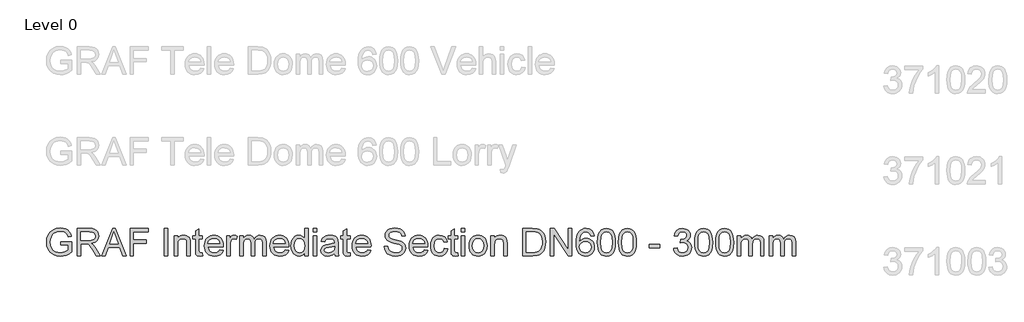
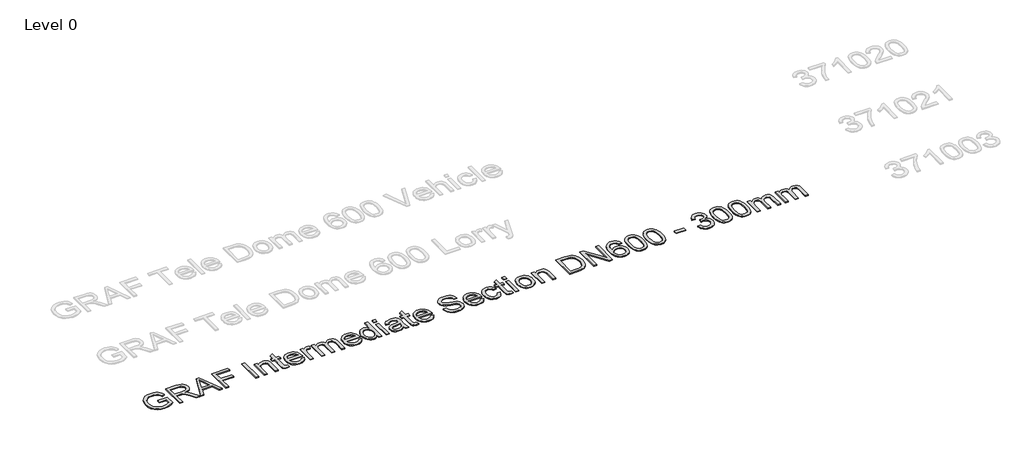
# One storey, part 2 of 14: 1 proxy.
"""IFC4 building model written with IfcOpenShell, lengths in millimetres."""

from ifc_helpers import new_model, si_unit, origin, origin_with_axes, place, context, project, spatial, polyline, outline, extrude, element, save

model = new_model("IFC4")

# Units and contexts
model_context = context("Model", 3, world=origin())
ifc_project = project(units=[si_unit("LENGTHUNIT", "METRE", prefix="MILLI")], contexts=[model_context])

# Site, building, storey
site = spatial("IfcSite", under=ifc_project)
building = spatial("IfcBuilding", under=site)
storey = spatial("IfcBuildingStorey", under=building, Name="Level 0", Elevation=0.0)

# Proxy
placement = place(None, origin())
element("IfcBuildingElementProxy", 1, Name="300mm Arial", ObjectType="300mm Arial", at=placement, inside=storey, context=model_context, shape_type="SweptSolid", body=[
    extrude(outline(polyline([(-15240.9940387, -12082.8803891), (-15240.9940387, -12045.2092728), (-15118.5629107, -12045.2092728), (-15118.5629107, -12157.8547397), (-15148.3153671, -12178.5481019), (-15179.0059225, -12193.3921404), (-15210.5610007, -12202.3316729), (-15242.9070251, -12205.3115171), (-15285.1674693, -12200.5750364), (-15323.3628175, -12186.3655943), (-15355.0926395, -12163.1798316), (-15377.9565055, -12131.5143888), (-15391.7796715, -12093.5305728), (-15396.3873935, -12051.3896903), (-15391.7980656, -12008.9453051), (-15378.0300819, -11969.46237), (-15355.6536596, -11936.3437934), (-15325.2390156, -11912.9924837), (-15288.1932987, -11899.1417266), (-15245.9236575, -11894.5248075), (-15214.8928112, -11897.2011491), (-15186.9889618, -11905.2301736), (-15163.4904994, -11918.032467), (-15145.6758138, -11935.0286152), (-15132.4964413, -11957.0371556), (-15122.9039183, -11984.8766256), (-15157.6319786, -11994.6622866), (-15165.3850917, -11974.8058559), (-15174.8120678, -11959.8238617), (-15187.2832674, -11948.5298844), (-15204.169051, -11939.7375048), (-15224.3013932, -11934.0813191), (-15246.5122687, -11932.1959239), (-15272.5123287, -11934.2284719), (-15294.7415982, -11940.3261159), (-15313.1173039, -11949.7255009), (-15327.5566722, -11961.6632717), (-15346.9440533, -11990.6891611), (-15355.7732212, -12019.1264393), (-15358.7162772, -12049.8445859), (-15355.175413, -12085.8694303), (-15344.5528204, -12115.5115221), (-15327.1703961, -12138.5593291), (-15303.3500369, -12154.8013191), (-15275.4737787, -12164.4306304), (-15245.9236575, -12167.6404008), (-15219.831627, -12165.2215767), (-15194.3833899, -12157.9651043), (-15172.2828791, -12147.9679111), (-15156.234027, -12137.3269244), (-15156.234027, -12082.8803891), (-15240.9940387, -12082.8803891)])), origin_with_axes(), (0.0, 0.0, 1.0), 10.0),
    extrude(outline(polyline([(-15057.3473467, -12200.6026275), (-15057.3473467, -11899.2336971), (-14927.4850024, -11899.2336971), (-14892.5821982, -11901.2662451), (-14867.1891434, -11907.3638892), (-14848.6294968, -11918.6210782), (-14834.2269167, -11936.1322612), (-14824.9838815, -11957.846496), (-14821.9028698, -11981.7128404), (-14827.0072325, -12011.4009174), (-14842.3203206, -12036.0122229), (-14853.9200997, -12046.0416058), (-14868.3019865, -12054.0568348), (-14905.4120827, -12064.0448309), (-14884.0013506, -12080.1580623), (-14853.467145, -12118.9328246), (-14803.2144645, -12200.6026275), (-14846.9924219, -12200.6026275), (-14886.2086426, -12138.1362648), (-14914.5355562, -12096.7863285), (-14934.4379722, -12077.2517946), (-14952.3538253, -12070.0780956), (-14974.2060158, -12068.7537205), (-15019.6762304, -12068.7537205), (-15019.6762304, -12200.6026275), (-15057.3473467, -12200.6026275)]), holes=[polyline([(-15019.6762304, -12031.0826042), (-14935.3576771, -12031.0826042), (-14911.1418448, -12029.7490319), (-14892.3522719, -12025.7483152), (-14878.2072092, -12018.8137396), (-14867.9249074, -12008.6785907), (-14861.6617165, -11996.4189232), (-14859.5739861, -11983.110792), (-14863.5563087, -11964.7350863), (-14875.5032765, -11949.927836), (-14896.058683, -11940.1605691), (-14925.8663217, -11936.9048134), (-15019.6762304, -11936.9048134), (-15019.6762304, -12031.0826042)])]), origin_with_axes(), (0.0, 0.0, 1.0), 10.0),
    extrude(outline(polyline([(-14791.0743586, -12200.6026275), (-14670.7769462, -11899.2336971), (-14638.6976362, -11899.2336971), (-14518.4002238, -12200.6026275), (-14558.2050557, -12200.6026275), (-14592.7123868, -12106.4248368), (-14716.835772, -12106.4248368), (-14751.2695268, -12200.6026275), (-14791.0743586, -12200.6026275)]), holes=[polyline([(-14703.003409, -12068.7537205), (-14606.4711735, -12068.7537205), (-14633.6208647, -11994.6622866), (-14654.7372912, -11936.9048134), (-14673.499273, -11988.1875635), (-14703.003409, -12068.7537205)])]), origin_with_axes(), (0.0, 0.0, 1.0), 10.0),
    extrude(outline(polyline([(-14478.1539335, -12200.6026275), (-14478.1539335, -11899.2336971), (-14275.6716834, -11899.2336971), (-14275.6716834, -11936.9048134), (-14440.4828172, -11936.9048134), (-14440.4828172, -12026.3737146), (-14299.2161311, -12026.3737146), (-14299.2161311, -12064.0448309), (-14440.4828172, -12064.0448309), (-14440.4828172, -12200.6026275), (-14478.1539335, -12200.6026275)])), origin_with_axes(), (0.0, 0.0, 1.0), 10.0),
    extrude(outline(polyline([(-14101.4427705, -12200.6026275), (-14101.4427705, -11899.2336971), (-14063.7716542, -11899.2336971), (-14063.7716542, -12200.6026275), (-14101.4427705, -12200.6026275)])), origin_with_axes(), (0.0, 0.0, 1.0), 10.0),
    extrude(outline(polyline([(-13993.1383111, -12200.6026275), (-13993.1383111, -11979.2848192), (-13955.4671948, -11979.2848192), (-13955.4671948, -12010.1869068), (-13942.3797928, -11994.6071043), (-13926.6620346, -11983.478674), (-13908.3139201, -11976.8016158), (-13887.3354493, -11974.5759297), (-13868.7666056, -11976.3693544), (-13851.7612603, -11981.7496286), (-13837.5794094, -11990.0453676), (-13827.4810487, -12000.5851868), (-13816.1870714, -12028.286701), (-13814.2005086, -12064.7070185), (-13814.2005086, -12200.6026275), (-13851.8716249, -12200.6026275), (-13851.8716249, -12069.7837901), (-13856.2126325, -12036.4536813), (-13862.2183061, -12026.5300645), (-13871.5533117, -12018.8321337), (-13883.5186736, -12013.8933179), (-13897.415416, -12012.247046), (-13919.4791386, -12015.9442601), (-13938.2871056, -12027.0359022), (-13945.8033946, -12036.0903978), (-13951.1721725, -12048.4650284), (-13955.4671948, -12083.1746947), (-13955.4671948, -12200.6026275), (-13993.1383111, -12200.6026275)])), origin_with_axes(), (0.0, 0.0, 1.0), 10.0),
    extrude(outline(polyline([(-13682.3516016, -12169.1855051), (-13677.642712, -12201.7062735), (-13705.8224729, -12205.3115171), (-13723.9038729, -12203.7480186), (-13737.386748, -12199.0575232), (-13746.9148917, -12191.828642), (-13753.1320974, -12182.6499862), (-13756.5534, -12166.8862427), (-13757.6938342, -12139.9020983), (-13757.6938342, -12016.9559355), (-13785.9471714, -12016.9559355), (-13785.9471714, -11979.2848192), (-13757.6938342, -11979.2848192), (-13757.6938342, -11925.5004715), (-13720.0227179, -11903.3539754), (-13720.0227179, -11979.2848192), (-13682.3516016, -11979.2848192), (-13682.3516016, -12016.9559355), (-13720.0227179, -12016.9559355), (-13720.0227179, -12138.7984523), (-13718.0361551, -12158.2226217), (-13711.5982202, -12165.102015), (-13698.7591386, -12167.6404008), (-13682.3516016, -12169.1855051)])), origin_with_axes(), (0.0, 0.0, 1.0), 10.0),
    extrude(outline(polyline([(-13489.7285889, -12134.678174), (-13452.7932366, -12139.3870635), (-13466.1013678, -12167.2173365), (-13487.3373559, -12188.0210633), (-13516.0229545, -12200.9889036), (-13551.6799169, -12205.3115171), (-13575.0542192, -12203.4468152), (-13595.8809386, -12197.8527096), (-13614.1600752, -12188.5292003), (-13629.8916291, -12175.4762873), (-13642.5421712, -12159.057254), (-13651.5782727, -12139.6353839), (-13656.9999336, -12117.210677), (-13658.8071539, -12091.7831334), (-13656.9815395, -12065.4933663), (-13651.5046963, -12042.3213991), (-13642.3766243, -12022.2672319), (-13629.5973235, -12005.3308645), (-13613.9071564, -11991.8755805), (-13596.0464855, -11982.2646634), (-13576.0153109, -11976.4981131), (-13553.8136325, -11974.5759297), (-13532.3270247, -11976.4935146), (-13512.8959575, -11982.2462693), (-13495.5204311, -11991.8341938), (-13480.2004452, -12005.2572881), (-13467.6947566, -12022.1568673), (-13458.762122, -12042.1742463), (-13453.4025411, -12065.3094253), (-13451.6160142, -12091.5624042), (-13451.8367434, -12101.7159472), (-13621.1360376, -12101.7159472), (-13614.6153292, -12129.9141022), (-13599.4677881, -12150.6442526), (-13577.6064005, -12163.3913637), (-13550.9441529, -12167.6404008), (-13530.8945842, -12165.6722321), (-13514.0088006, -12159.7677261), (-13500.2868022, -12149.5590007), (-13489.7285889, -12134.678174)]), holes=[polyline([(-13621.1360376, -12064.0448309), (-13489.2871305, -12064.0448309), (-13494.3822961, -12044.142415), (-13504.3702923, -12029.9053818), (-13526.3328474, -12016.6616299), (-13553.9607853, -12012.247046), (-13579.35384, -12015.7695161), (-13600.3507048, -12026.3369264), (-13614.946423, -12042.8088428), (-13621.1360376, -12064.0448309)])]), origin_with_axes(), (0.0, 0.0, 1.0), 10.0),
    extrude(outline(polyline([(-13413.9448979, -12200.6026275), (-13413.9448979, -11979.2848192), (-13380.9826711, -11979.2848192), (-13380.9826711, -12012.0263168), (-13368.8057771, -11993.0436059), (-13357.5853762, -11981.8599932), (-13346.3281872, -11976.3969456), (-13334.0409285, -11974.5759297), (-13315.2789468, -11977.4821975), (-13296.2226594, -11986.2010007), (-13308.8042237, -12019.9725679), (-13322.0479755, -12014.1784265), (-13335.2917273, -12012.247046), (-13346.5397193, -12014.1048501), (-13356.5920948, -12019.6782623), (-13364.7130899, -12028.5442184), (-13370.1669405, -12040.279654), (-13374.7470713, -12061.3225042), (-13376.2737816, -12084.2783407), (-13376.2737816, -12200.6026275), (-13413.9448979, -12200.6026275)])), origin_with_axes(), (0.0, 0.0, 1.0), 10.0),
    extrude(outline(polyline([(-13272.6782117, -12200.6026275), (-13272.6782117, -11979.2848192), (-13235.0070954, -11979.2848192), (-13235.0070954, -12015.7051368), (-13223.67633, -11998.975703), (-13209.108203, -11985.869907), (-13191.7993551, -11977.399424), (-13172.2464271, -11974.5759297), (-13151.2955474, -11977.4546063), (-13134.5017344, -11986.0906361), (-13121.9569583, -11999.9138021), (-13113.7531898, -12018.3538871), (-13100.0219944, -11999.2010308), (-13084.3594184, -11985.5204191), (-13066.765462, -11977.312052), (-13047.2401251, -11974.5759297), (-13018.9224085, -11979.1284694), (-12997.9807259, -11992.7860885), (-12985.0404768, -12015.9166689), (-12980.7270604, -12048.8880927), (-12980.7270604, -12200.6026275), (-13018.3981767, -12200.6026275), (-13018.3981767, -12065.0749005), (-13021.8930556, -12033.6209899), (-13026.8042803, -12024.9481719), (-13034.5481963, -12018.1331579), (-13044.5086013, -12013.718574), (-13056.069293, -12012.247046), (-13076.4775467, -12016.0178365), (-13093.1150099, -12027.3302078), (-13104.1790609, -12046.9567123), (-13107.8670779, -12075.669902), (-13107.8670779, -12200.6026275), (-13145.5381942, -12200.6026275), (-13145.5381942, -12060.8810458), (-13147.717895, -12039.5806782), (-13154.2569975, -12024.3871518), (-13165.7625069, -12015.2820725), (-13182.8414285, -12012.247046), (-13197.3543732, -12014.270397), (-13210.7268838, -12020.3404499), (-13221.7633436, -12030.310052), (-13229.2681363, -12044.0320504), (-13233.5723557, -12063.0699436), (-13235.0070954, -12088.9872302), (-13235.0070954, -12200.6026275), (-13272.6782117, -12200.6026275)])), origin_with_axes(), (0.0, 0.0, 1.0), 10.0),
    extrude(outline(polyline([(-12769.2684895, -12134.678174), (-12732.3331372, -12139.3870635), (-12745.6412684, -12167.2173365), (-12766.8772566, -12188.0210633), (-12795.5628551, -12200.9889036), (-12831.2198175, -12205.3115171), (-12854.5941198, -12203.4468152), (-12875.4208393, -12197.8527096), (-12893.6999759, -12188.5292003), (-12909.4315297, -12175.4762873), (-12922.0820718, -12159.057254), (-12931.1181733, -12139.6353839), (-12936.5398342, -12117.210677), (-12938.3470545, -12091.7831334), (-12936.5214401, -12065.4933663), (-12931.0445969, -12042.3213991), (-12921.9165249, -12022.2672319), (-12909.1372241, -12005.3308645), (-12893.447057, -11991.8755805), (-12875.5863861, -11982.2646634), (-12855.5552115, -11976.4981131), (-12833.3535331, -11974.5759297), (-12811.8669253, -11976.4935146), (-12792.4358582, -11982.2462693), (-12775.0603317, -11991.8341938), (-12759.7403459, -12005.2572881), (-12747.2346573, -12022.1568673), (-12738.3020226, -12042.1742463), (-12732.9424418, -12065.3094253), (-12731.1559148, -12091.5624042), (-12731.376644, -12101.7159472), (-12900.6759382, -12101.7159472), (-12894.1552299, -12129.9141022), (-12879.0076887, -12150.6442526), (-12857.1463011, -12163.3913637), (-12830.4840535, -12167.6404008), (-12810.4344848, -12165.6722321), (-12793.5487012, -12159.7677261), (-12779.8267028, -12149.5590007), (-12769.2684895, -12134.678174)]), holes=[polyline([(-12900.6759382, -12064.0448309), (-12768.8270311, -12064.0448309), (-12773.9221968, -12044.142415), (-12783.910193, -12029.9053818), (-12805.8727481, -12016.6616299), (-12833.5006859, -12012.247046), (-12858.8937406, -12015.7695161), (-12879.8906055, -12026.3369264), (-12894.4863237, -12042.8088428), (-12900.6759382, -12064.0448309)])]), origin_with_axes(), (0.0, 0.0, 1.0), 10.0),
    extrude(outline(polyline([(-12556.9270019, -12200.6026275), (-12556.9270019, -12165.0652268), (-12568.1979866, -12182.6729788), (-12581.8510071, -12195.2499445), (-12597.8860636, -12202.7961239), (-12616.3031559, -12205.3115171), (-12640.656944, -12201.6694853), (-12662.9505929, -12190.7433901), (-12681.8229393, -12173.2965864), (-12695.9128197, -12150.0924296), (-12704.6868053, -12122.0690186), (-12707.6114672, -12090.1644526), (-12704.9167315, -12058.6553597), (-12696.8325247, -12030.1996874), (-12683.3680437, -12006.4161164), (-12664.5324855, -11988.9233275), (-12641.751393, -11978.1627792), (-12616.4503087, -11974.5759297), (-12598.0194208, -11977.1419066), (-12581.7222484, -11984.8398374), (-12567.9082795, -11996.6396524), (-12556.9270019, -12011.511282), (-12556.9270019, -11899.2336971), (-12519.2558856, -11899.2336971), (-12519.2558856, -12200.6026275), (-12556.9270019, -12200.6026275)]), holes=[polyline([(-12669.9403508, -12090.0172998), (-12665.6913138, -12124.0923696), (-12652.9442027, -12148.326596), (-12634.4213442, -12162.8119496), (-12612.8450652, -12167.6404008), (-12591.2779832, -12163.0326788), (-12573.2241743, -12149.2095128), (-12561.001295, -12125.9133855), (-12556.9270019, -12092.8867793), (-12561.0748714, -12056.7791615), (-12573.5184799, -12031.7447918), (-12592.0321413, -12017.1214824), (-12614.3901696, -12012.247046), (-12636.1871778, -12016.9283444), (-12654.0478487, -12030.9722396), (-12665.9672253, -12055.0961014), (-12669.9403508, -12090.0172998)])]), origin_with_axes(), (0.0, 0.0, 1.0), 10.0),
    extrude(outline(polyline([(-12462.7492112, -11936.9048134), (-12462.7492112, -11899.2336971), (-12425.0780949, -11899.2336971), (-12425.0780949, -11936.9048134), (-12462.7492112, -11936.9048134)])), origin_with_axes(), (0.0, 0.0, 1.0), 10.0),
    extrude(outline(polyline([(-12462.7492112, -12200.6026275), (-12462.7492112, -11979.2848192), (-12425.0780949, -11979.2848192), (-12425.0780949, -12200.6026275), (-12462.7492112, -12200.6026275)])), origin_with_axes(), (0.0, 0.0, 1.0), 10.0),
    extrude(outline(polyline([(-12227.3047342, -12172.3492903), (-12245.3033609, -12187.78194), (-12263.8354164, -12197.8803008), (-12283.3239651, -12203.453713), (-12304.1920712, -12205.3115171), (-12335.673573, -12200.8417508), (-12358.8961239, -12187.4324521), (-12373.2159306, -12167.0701837), (-12377.9891995, -12141.7415083), (-12376.1865777, -12126.1249176), (-12370.7787124, -12111.9430667), (-12362.4369881, -12099.8029609), (-12351.8327896, -12090.3116054), (-12325.4556506, -12077.9507703), (-12292.8613058, -12072.2853876), (-12254.3440609, -12066.3256993), (-12227.5254634, -12059.3359414), (-12227.3047342, -12050.9482319), (-12229.8983023, -12034.1360247), (-12237.6790065, -12023.1363531), (-12255.0798249, -12014.9693728), (-12279.3232484, -12012.247046), (-12301.7640501, -12014.0588648), (-12317.4358231, -12019.4943213), (-12328.122795, -12029.5466968), (-12335.6091936, -12045.2092728), (-12373.2803099, -12040.5003832), (-12366.7412075, -12019.8989915), (-12356.9831375, -12003.7121837), (-12343.0955922, -11991.3329546), (-12324.1680636, -11982.1542988), (-12301.019089, -11976.470522), (-12274.467206, -11974.5759297), (-12249.0005749, -11976.2497928), (-12228.8130504, -11981.271382), (-12213.5919329, -11988.82216), (-12203.0245226, -11998.0835892), (-12196.0163706, -12009.5339163), (-12191.4730279, -12023.6513879), (-12189.6336179, -12056.6136146), (-12189.6336179, -12103.4817808), (-12187.7206316, -12168.9279878), (-12180.2158389, -12200.6026275), (-12217.8869552, -12200.6026275), (-12227.3047342, -12172.3492903)]), holes=[polyline([(-12227.3047342, -12097.0070577), (-12288.0788399, -12108.5585523), (-12320.4892436, -12114.6653935), (-12335.1677352, -12124.5982073), (-12340.3180832, -12139.0927579), (-12337.512983, -12150.2947647), (-12329.0976823, -12159.4734205), (-12315.2561222, -12165.5986557), (-12296.1722437, -12167.6404008), (-12275.938734, -12165.3871235), (-12258.059669, -12158.6272919), (-12243.5651184, -12148.6668869), (-12233.4851518, -12136.8118896), (-12229.0153855, -12124.5982073), (-12227.5254634, -12107.6756356), (-12227.3047342, -12097.0070577)])]), origin_with_axes(), (0.0, 0.0, 1.0), 10.0),
    extrude(outline(polyline([(-12057.7847109, -12169.1855051), (-12053.0758213, -12201.7062735), (-12081.2555822, -12205.3115171), (-12099.3369822, -12203.7480186), (-12112.8198573, -12199.0575232), (-12122.348001, -12191.828642), (-12128.5652067, -12182.6499862), (-12131.9865093, -12166.8862427), (-12133.1269435, -12139.9020983), (-12133.1269435, -12016.9559355), (-12161.3802807, -12016.9559355), (-12161.3802807, -11979.2848192), (-12133.1269435, -11979.2848192), (-12133.1269435, -11925.5004715), (-12095.4558272, -11903.3539754), (-12095.4558272, -11979.2848192), (-12057.7847109, -11979.2848192), (-12057.7847109, -12016.9559355), (-12095.4558272, -12016.9559355), (-12095.4558272, -12138.7984523), (-12093.4692644, -12158.2226217), (-12087.0313295, -12165.102015), (-12074.1922479, -12167.6404008), (-12057.7847109, -12169.1855051)])), origin_with_axes(), (0.0, 0.0, 1.0), 10.0),
    extrude(outline(polyline([(-11865.1616982, -12134.678174), (-11828.2263459, -12139.3870635), (-11841.5344771, -12167.2173365), (-11862.7704652, -12188.0210633), (-11891.4560638, -12200.9889036), (-11927.1130262, -12205.3115171), (-11950.4873285, -12203.4468152), (-11971.3140479, -12197.8527096), (-11989.5931845, -12188.5292003), (-12005.3247384, -12175.4762873), (-12017.9752805, -12159.057254), (-12027.011382, -12139.6353839), (-12032.4330429, -12117.210677), (-12034.2402632, -12091.7831334), (-12032.4146488, -12065.4933663), (-12026.9378056, -12042.3213991), (-12017.8097336, -12022.2672319), (-12005.0304328, -12005.3308645), (-11989.3402657, -11991.8755805), (-11971.4795948, -11982.2646634), (-11951.4484202, -11976.4981131), (-11929.2467418, -11974.5759297), (-11907.760134, -11976.4935146), (-11888.3290668, -11982.2462693), (-11870.9535404, -11991.8341938), (-11855.6335545, -12005.2572881), (-11843.1278659, -12022.1568673), (-11834.1952313, -12042.1742463), (-11828.8356504, -12065.3094253), (-11827.0491235, -12091.5624042), (-11827.2698527, -12101.7159472), (-11996.5691469, -12101.7159472), (-11990.0484385, -12129.9141022), (-11974.9008974, -12150.6442526), (-11953.0395098, -12163.3913637), (-11926.3772622, -12167.6404008), (-11906.3276935, -12165.6722321), (-11889.4419099, -12159.7677261), (-11875.7199115, -12149.5590007), (-11865.1616982, -12134.678174)]), holes=[polyline([(-11996.5691469, -12064.0448309), (-11864.7202398, -12064.0448309), (-11869.8154054, -12044.142415), (-11879.8034016, -12029.9053818), (-11901.7659567, -12016.6616299), (-11929.3938946, -12012.247046), (-11954.7869493, -12015.7695161), (-11975.7838141, -12026.3369264), (-11990.3795323, -12042.8088428), (-11996.5691469, -12064.0448309)])]), origin_with_axes(), (0.0, 0.0, 1.0), 10.0),
    extrude(outline(polyline([(-11681.0735478, -12097.0070577), (-11643.4024315, -12097.0070577), (-11639.0798181, -12117.9119521), (-11631.2623257, -12134.7149622), (-11619.0670375, -12148.0506845), (-11601.6110369, -12158.5537155), (-11580.2738811, -12165.3687294), (-11556.4351278, -12167.6404008), (-11535.44746, -12165.9205524), (-11517.0717544, -12160.7610075), (-11502.1817306, -12152.5940272), (-11491.6511085, -12141.8518729), (-11485.3879175, -12129.518629), (-11483.3001872, -12116.5783798), (-11484.8636857, -12103.9692245), (-11489.5541811, -12093.0707203), (-11499.0823248, -12083.7725029), (-11515.158768, -12075.9642076), (-11570.0099735, -12061.5800216), (-11606.0164237, -12052.0610749), (-11629.0550337, -12043.0019808), (-11647.8078184, -12030.3284461), (-11661.0975555, -12014.9693728), (-11669.0162154, -11997.2558547), (-11671.6557687, -11977.5189857), (-11668.390816, -11955.455263), (-11658.5959579, -11934.8814624), (-11642.5287118, -11917.4438558), (-11620.446595, -11904.7887152), (-11593.9406973, -11897.0907845), (-11564.6021081, -11894.5248075), (-11532.8171038, -11897.2103461), (-11505.0052249, -11905.2669618), (-11482.159753, -11918.5291077), (-11465.2739694, -11936.831237), (-11454.5869975, -11959.0329154), (-11450.3379604, -11983.9937088), (-11488.0090767, -11983.9937088), (-11494.9252582, -11961.5161189), (-11509.3462325, -11945.2925229), (-11531.8790047, -11935.4700736), (-11563.1305802, -11932.1959239), (-11595.1179196, -11935.4332854), (-11617.0620806, -11945.1453701), (-11629.7540095, -11959.4375856), (-11633.9846524, -11976.4153397), (-11630.9864142, -11990.8914962), (-11621.9916994, -12002.5349613), (-11600.7281201, -12012.9460218), (-11560.4818298, -12023.5778115), (-11518.9479525, -12033.6761722), (-11493.8216123, -12042.486946), (-11472.3465008, -12056.1537621), (-11457.3645065, -12073.0211516), (-11448.5629298, -12092.9051734), (-11445.6290709, -12115.6218867), (-11449.0043882, -12138.8444376), (-11459.1303401, -12160.6874311), (-11475.5930594, -12179.486201), (-11497.9786788, -12193.5760814), (-11524.8984438, -12202.3776582), (-11554.9635999, -12205.3115171), (-11591.871361, -12202.1477319), (-11622.2492168, -12192.6563764), (-11646.446655, -12176.8006624), (-11664.8131636, -12154.5438017), (-11676.6037816, -12127.4308987), (-11681.0735478, -12097.0070577)])), origin_with_axes(), (0.0, 0.0, 1.0), 10.0),
    extrude(outline(polyline([(-11238.8793896, -12134.678174), (-11201.9440373, -12139.3870635), (-11215.2521685, -12167.2173365), (-11236.4881566, -12188.0210633), (-11265.1737552, -12200.9889036), (-11300.8307176, -12205.3115171), (-11324.2050199, -12203.4468152), (-11345.0317393, -12197.8527096), (-11363.310876, -12188.5292003), (-11379.0424298, -12175.4762873), (-11391.6929719, -12159.057254), (-11400.7290734, -12139.6353839), (-11406.1507343, -12117.210677), (-11407.9579546, -12091.7831334), (-11406.1323402, -12065.4933663), (-11400.655497, -12042.3213991), (-11391.527425, -12022.2672319), (-11378.7481242, -12005.3308645), (-11363.0579571, -11991.8755805), (-11345.1972862, -11982.2646634), (-11325.1661116, -11976.4981131), (-11302.9644332, -11974.5759297), (-11281.4778254, -11976.4935146), (-11262.0467583, -11982.2462693), (-11244.6712318, -11991.8341938), (-11229.3512459, -12005.2572881), (-11216.8455574, -12022.1568673), (-11207.9129227, -12042.1742463), (-11202.5533418, -12065.3094253), (-11200.7668149, -12091.5624042), (-11200.9875441, -12101.7159472), (-11370.2868383, -12101.7159472), (-11363.7661299, -12129.9141022), (-11348.6185888, -12150.6442526), (-11326.7572012, -12163.3913637), (-11300.0949536, -12167.6404008), (-11280.0453849, -12165.6722321), (-11263.1596013, -12159.7677261), (-11249.4376029, -12149.5590007), (-11238.8793896, -12134.678174)]), holes=[polyline([(-11370.2868383, -12064.0448309), (-11238.4379312, -12064.0448309), (-11243.5330968, -12044.142415), (-11253.521093, -12029.9053818), (-11275.4836481, -12016.6616299), (-11303.111586, -12012.247046), (-11328.5046407, -12015.7695161), (-11349.5015056, -12026.3369264), (-11364.0972237, -12042.8088428), (-11370.2868383, -12064.0448309)])]), origin_with_axes(), (0.0, 0.0, 1.0), 10.0),
    extrude(outline(polyline([(-11021.8290125, -12120.5515054), (-10984.1578961, -12125.2603949), (-10994.6609271, -12158.7652476), (-11014.3977961, -12184.084726), (-11041.5106992, -12200.0048193), (-11074.1418322, -12205.3115171), (-11095.269755, -12203.4606108), (-11114.2133785, -12197.9078919), (-11130.9727026, -12188.6533605), (-11145.5477274, -12175.6970165), (-11157.3452432, -12159.2825817), (-11165.7720401, -12139.653778), (-11170.8281183, -12116.8106053), (-11172.5134777, -12090.7530638), (-11169.6348011, -12057.229817), (-11160.9987712, -12028.1763364), (-11146.4674324, -12004.7146622), (-11125.9028289, -11987.9668343), (-11101.3007205, -11977.9236559), (-11074.656867, -11974.5759297), (-11042.8258773, -11979.1744546), (-11017.3776403, -11992.9700295), (-10999.1214963, -12015.2268902), (-10988.8667857, -12045.2092728), (-11026.537902, -12049.9181623), (-11033.3713101, -12033.4830342), (-11044.0122968, -12021.7016133), (-11057.8722509, -12014.6106878), (-11074.3625614, -12012.247046), (-11098.7071524, -12016.9007532), (-11118.0301542, -12030.861875), (-11130.6393096, -12054.8845692), (-11134.8423614, -12089.7229942), (-11130.7312801, -12125.0304687), (-11118.3980362, -12149.1359364), (-11099.4245223, -12163.0142847), (-11075.392631, -12167.6404008), (-11055.8856882, -12164.7525271), (-11039.8920184, -12156.0889061), (-11028.2577503, -12141.4288086), (-11021.8290125, -12120.5515054)])), origin_with_axes(), (0.0, 0.0, 1.0), 10.0),
    extrude(outline(polyline([(-10871.1445472, -12169.1855051), (-10866.4356577, -12201.7062735), (-10894.6154185, -12205.3115171), (-10912.6968186, -12203.7480186), (-10926.1796937, -12199.0575232), (-10935.7078374, -12191.828642), (-10941.9250431, -12182.6499862), (-10945.3463457, -12166.8862427), (-10946.4867798, -12139.9020983), (-10946.4867798, -12016.9559355), (-10974.7401171, -12016.9559355), (-10974.7401171, -11979.2848192), (-10946.4867798, -11979.2848192), (-10946.4867798, -11925.5004715), (-10908.8156635, -11903.3539754), (-10908.8156635, -11979.2848192), (-10871.1445472, -11979.2848192), (-10871.1445472, -12016.9559355), (-10908.8156635, -12016.9559355), (-10908.8156635, -12138.7984523), (-10906.8291008, -12158.2226217), (-10900.3911658, -12165.102015), (-10887.5520842, -12167.6404008), (-10871.1445472, -12169.1855051)])), origin_with_axes(), (0.0, 0.0, 1.0), 10.0),
    extrude(outline(polyline([(-10833.4734309, -11936.9048134), (-10833.4734309, -11899.2336971), (-10795.8023146, -11899.2336971), (-10795.8023146, -11936.9048134), (-10833.4734309, -11936.9048134)])), origin_with_axes(), (0.0, 0.0, 1.0), 10.0),
    extrude(outline(polyline([(-10833.4734309, -12200.6026275), (-10833.4734309, -11979.2848192), (-10795.8023146, -11979.2848192), (-10795.8023146, -12200.6026275), (-10833.4734309, -12200.6026275)])), origin_with_axes(), (0.0, 0.0, 1.0), 10.0),
    extrude(outline(polyline([(-10748.7134192, -12089.9437234), (-10746.6762727, -12061.2811174), (-10740.564833, -12036.58244), (-10730.3791003, -12015.847691), (-10716.1190745, -11999.0768706), (-10701.7624796, -11988.3577089), (-10685.9159627, -11980.7011649), (-10668.5795236, -11976.1072385), (-10649.7531625, -11974.5759297), (-10628.9701291, -11976.4406316), (-10610.1782569, -11982.0347372), (-10593.377546, -11991.3582465), (-10578.5679965, -12004.4111595), (-10566.4807737, -12020.7520179), (-10557.8470431, -12039.9393632), (-10552.6668047, -12061.9731954), (-10550.9400586, -12086.8535146), (-10553.9934792, -12124.910907), (-10563.1537409, -12153.8816141), (-10578.1541292, -12175.5774548), (-10598.7279298, -12191.8102479), (-10623.1644913, -12201.9361998), (-10649.7531625, -12205.3115171), (-10670.8396986, -12203.453713), (-10689.8063148, -12197.8803008), (-10706.6530109, -12188.5912804), (-10721.379787, -12175.5866519), (-10733.3382511, -12159.0871444), (-10741.8800112, -12139.3134871), (-10747.0050672, -12116.2656801), (-10748.7134192, -12089.9437234)]), holes=[polyline([(-10711.0423029, -12089.870147), (-10706.6829013, -12123.9636109), (-10693.6046964, -12148.2530196), (-10673.9230096, -12162.7935555), (-10649.7531625, -12167.6404008), (-10625.69368, -12162.7659643), (-10606.0487815, -12148.142655), (-10592.9705766, -12123.5313495), (-10588.6111749, -12088.6929246), (-10592.9981677, -12055.5927421), (-10606.1591461, -12031.6344272), (-10625.8316358, -12017.0938913), (-10649.7531625, -12012.247046), (-10673.9230096, -12017.0754972), (-10693.6046964, -12031.5608508), (-10706.6829013, -12055.7950772), (-10711.0423029, -12089.870147)])]), origin_with_axes(), (0.0, 0.0, 1.0), 10.0),
    extrude(outline(polyline([(-10508.5600528, -12200.6026275), (-10508.5600528, -11979.2848192), (-10470.8889365, -11979.2848192), (-10470.8889365, -12010.1869068), (-10457.8015345, -11994.6071043), (-10442.0837763, -11983.478674), (-10423.7356617, -11976.8016158), (-10402.757191, -11974.5759297), (-10384.1883473, -11976.3693544), (-10367.183002, -11981.7496286), (-10353.0011511, -11990.0453676), (-10342.9027904, -12000.5851868), (-10331.6088131, -12028.286701), (-10329.6222503, -12064.7070185), (-10329.6222503, -12200.6026275), (-10367.2933666, -12200.6026275), (-10367.2933666, -12069.7837901), (-10371.6343742, -12036.4536813), (-10377.6400477, -12026.5300645), (-10386.9750534, -12018.8321337), (-10398.9404153, -12013.8933179), (-10412.8371576, -12012.247046), (-10434.9008803, -12015.9442601), (-10453.7088473, -12027.0359022), (-10461.2251363, -12036.0903978), (-10466.5939142, -12048.4650284), (-10470.8889365, -12083.1746947), (-10470.8889365, -12200.6026275), (-10508.5600528, -12200.6026275)])), origin_with_axes(), (0.0, 0.0, 1.0), 10.0),
    extrude(outline(polyline([(-10155.3933374, -12200.6026275), (-10155.3933374, -11899.2336971), (-10051.4298856, -11899.2336971), (-9997.6455379, -11903.5747046), (-9973.6228436, -11911.94402), (-9953.3525457, -11925.1325895), (-9932.5120306, -11948.088426), (-9917.6679921, -11976.6360689), (-9908.7836419, -12010.223695), (-9905.8221919, -12048.2994815), (-9907.8271488, -12080.645506), (-9913.8420194, -12109.1103753), (-9923.0022811, -12133.3446018), (-9934.4434111, -12152.9986974), (-9947.6135865, -12168.5141205), (-9961.9609843, -12180.3323296), (-9978.4329007, -12189.0971181), (-9997.9766317, -12195.4522796), (-10046.4266904, -12200.6026275), (-10155.3933374, -12200.6026275)]), holes=[polyline([(-10117.7222211, -12162.9315112), (-10051.0620036, -12162.9315112), (-10023.489248, -12161.5703478), (-10002.5751566, -12157.4868577), (-9986.793019, -12150.9201641), (-9974.616125, -12142.1093903), (-9961.528723, -12125.8030209), (-9951.6970767, -12104.6957914), (-9945.5442503, -12078.6957314), (-9943.4933082, -12047.7108703), (-9947.512419, -12006.6552397), (-9959.5697514, -11976.3417633), (-9977.384437, -11955.5196424), (-9998.6756075, -11942.9380781), (-10020.343857, -11938.4131296), (-10052.0920732, -11936.9048134), (-10117.7222211, -11936.9048134), (-10117.7222211, -12162.9315112)])]), origin_with_axes(), (0.0, 0.0, 1.0), 10.0),
    extrude(outline(polyline([(-9854.024407, -12200.6026275), (-9854.024407, -11899.2336971), (-9813.7045403, -11899.2336971), (-9656.2510464, -12137.989112), (-9656.2510464, -11899.2336971), (-9618.57993, -11899.2336971), (-9618.57993, -12200.6026275), (-9658.8997967, -12200.6026275), (-9816.3532907, -11961.7736363), (-9816.3532907, -12200.6026275), (-9854.024407, -12200.6026275)])), origin_with_axes(), (0.0, 0.0, 1.0), 10.0),
    extrude(outline(polyline([(-9373.7176741, -11979.2848192), (-9411.3887904, -11983.9937088), (-9417.4588433, -11965.3236975), (-9425.6626118, -11952.5765864), (-9442.7507305, -11940.8227566), (-9463.4073045, -11936.9048134), (-9480.9184875, -11939.1856818), (-9497.3996008, -11946.0282869), (-9511.5538606, -11960.440064), (-9523.1145523, -11980.2781006), (-9530.9228476, -12008.3382998), (-9533.8199184, -12047.4165647), (-9518.7091654, -12029.7858201), (-9500.6001742, -12017.3606057), (-9480.5046202, -12009.9937688), (-9459.4341789, -12007.5381565), (-9441.3343848, -12009.2166181), (-9424.6325422, -12014.2520029), (-9409.3286512, -12022.6443109), (-9395.4227118, -12034.3935421), (-9383.8666186, -12048.8007208), (-9375.6122663, -12065.166871), (-9370.659655, -12083.4919929), (-9369.0087845, -12103.7760864), (-9372.1173874, -12130.7510337), (-9381.443196, -12155.7578123), (-9396.2136581, -12176.9662093), (-9415.6562215, -12192.5460118), (-9438.8879695, -12202.1201408), (-9465.0259853, -12205.3115171), (-9487.4828818, -12203.1961956), (-9507.7646761, -12196.8502312), (-9525.871368, -12186.2736238), (-9541.8029577, -12171.4663735), (-9554.7914913, -12151.8030809), (-9564.0690154, -12126.6583465), (-9569.6355299, -12096.0321704), (-9571.4910347, -12059.9245526), (-9569.4308955, -12019.4437375), (-9563.250478, -11984.8950197), (-9552.9497821, -11956.278399), (-9538.5288079, -11933.5938754), (-9522.8984216, -11918.5612974), (-9504.7756348, -11907.8237417), (-9484.1604475, -11901.3812082), (-9461.0528597, -11899.2336971), (-9427.9986624, -11904.5495919), (-9401.5295529, -11920.4972764), (-9382.9883003, -11945.8259518), (-9373.7176741, -11979.2848192)]), holes=[polyline([(-9533.8199184, -12103.1874752), (-9531.6402175, -12119.8801207), (-9525.1011151, -12135.8186082), (-9514.947572, -12149.5222125), (-9501.9245494, -12159.5102087), (-9486.2067911, -12165.6078527), (-9467.9690412, -12167.6404008), (-9443.1094154, -12163.4281519), (-9423.5656844, -12150.7914054), (-9410.9013467, -12130.9257777), (-9406.6799008, -12105.0268852), (-9410.8461644, -12080.1672594), (-9423.3449552, -12061.2121396), (-9443.21978, -12049.2099895), (-9469.5141456, -12045.2092728), (-9494.3369832, -12049.2099895), (-9515.0947248, -12061.2121396), (-9529.13862, -12079.7074069), (-9533.8199184, -12103.1874752)])]), origin_with_axes(), (0.0, 0.0, 1.0), 10.0),
    extrude(outline(polyline([(-9336.0465578, -12052.3461835), (-9333.2782457, -12004.1076569), (-9324.9733097, -11965.6363972), (-9311.2145231, -11936.3437934), (-9292.0846593, -11915.6412341), (-9267.4457627, -11903.3355813), (-9237.1598775, -11899.2336971), (-9213.9465236, -11901.6617183), (-9193.1611908, -11908.9457818), (-9175.7787666, -11920.8007791), (-9162.774138, -11936.9416016), (-9152.9516888, -11957.2302936), (-9145.1158023, -11981.5288994), (-9139.9838484, -12012.3850018), (-9138.2731971, -12052.3461835), (-9141.013918, -12100.3087986), (-9149.2360806, -12138.6880877), (-9162.9120938, -12168.0082828), (-9182.0143664, -12188.7936155), (-9206.7084453, -12201.1820417), (-9237.1598775, -12205.3115171), (-9257.908422, -12203.5180923), (-9276.3025217, -12198.1378182), (-9292.3421767, -12189.1706945), (-9306.0273869, -12176.6167215), (-9319.1607742, -12153.9230009), (-9328.5417651, -12125.646671), (-9334.1703596, -12091.7877319), (-9336.0465578, -12052.3461835)]), holes=[polyline([(-9298.3754414, -12052.2726071), (-9293.9608575, -12111.5291995), (-9288.4426276, -12131.7971981), (-9280.7171057, -12145.8249985), (-9260.9986307, -12162.1865502), (-9237.1598775, -12167.6404008), (-9213.3211242, -12162.1681561), (-9193.6026492, -12145.7514221), (-9185.8771273, -12131.7006291), (-9180.3588974, -12111.437229), (-9175.9443135, -12052.2726071), (-9180.2117446, -11994.3495869), (-9185.5460335, -11974.1482669), (-9193.014038, -11959.7870735), (-9212.6957248, -11942.6253784), (-9237.6013358, -11936.9048134), (-9261.1825717, -11941.9447967), (-9280.1284945, -11957.0647467), (-9288.1115338, -11972.6997315), (-9293.8137047, -11993.7793698), (-9298.3754414, -12052.2726071)])]), origin_with_axes(), (0.0, 0.0, 1.0), 10.0),
    extrude(outline(polyline([(-9105.3109704, -12052.3461835), (-9102.5426584, -12004.1076569), (-9094.2377223, -11965.6363972), (-9080.4789357, -11936.3437934), (-9061.349072, -11915.6412341), (-9036.7101753, -11903.3355813), (-9006.4242901, -11899.2336971), (-8983.2109362, -11901.6617183), (-8962.4256035, -11908.9457818), (-8945.0431792, -11920.8007791), (-8932.0385507, -11936.9416016), (-8922.2161014, -11957.2302936), (-8914.3802149, -11981.5288994), (-8909.248261, -12012.3850018), (-8907.5376098, -12052.3461835), (-8910.2783306, -12100.3087986), (-8918.5004932, -12138.6880877), (-8932.1765064, -12168.0082828), (-8951.278779, -12188.7936155), (-8975.9728579, -12201.1820417), (-9006.4242901, -12205.3115171), (-9027.1728346, -12203.5180923), (-9045.5669344, -12198.1378182), (-9061.6065894, -12189.1706945), (-9075.2917996, -12176.6167215), (-9088.4251868, -12153.9230009), (-9097.8061777, -12125.646671), (-9103.4347722, -12091.7877319), (-9105.3109704, -12052.3461835)]), holes=[polyline([(-9067.6398541, -12052.2726071), (-9063.2252701, -12111.5291995), (-9057.7070402, -12131.7971981), (-9049.9815183, -12145.8249985), (-9030.2630434, -12162.1865502), (-9006.4242901, -12167.6404008), (-8982.5855368, -12162.1681561), (-8962.8670618, -12145.7514221), (-8955.1415399, -12131.7006291), (-8949.62331, -12111.437229), (-8945.2087261, -12052.2726071), (-8949.4761572, -11994.3495869), (-8954.8104462, -11974.1482669), (-8962.2784507, -11959.7870735), (-8981.9601374, -11942.6253784), (-9006.8657485, -11936.9048134), (-9030.4469844, -11941.9447967), (-9049.3929071, -11957.0647467), (-9057.3759464, -11972.6997315), (-9063.0781173, -11993.7793698), (-9067.6398541, -12052.2726071)])]), origin_with_axes(), (0.0, 0.0, 1.0), 10.0),
    extrude(outline(polyline([(-8766.2709236, -12111.1337263), (-8766.2709236, -12073.46261), (-8648.5486852, -12073.46261), (-8648.5486852, -12111.1337263), (-8766.2709236, -12111.1337263)])), origin_with_axes(), (0.0, 0.0, 1.0), 10.0),
    extrude(outline(polyline([(-8497.8642199, -12120.5515054), (-8460.1931036, -12115.8426158), (-8451.7594089, -12139.5158222), (-8439.4077709, -12155.5002949), (-8422.5311844, -12164.6053743), (-8400.522644, -12167.6404008), (-8374.697328, -12163.4649401), (-8354.7581238, -12150.9385582), (-8342.0110127, -12132.2501528), (-8337.7619756, -12109.5886219), (-8341.9742245, -12088.0767223), (-8354.610971, -12070.6299186), (-8373.7408348, -12059.0692269), (-8397.4324353, -12055.215663), (-8423.8463625, -12059.3359414), (-8419.6525078, -12021.6648251), (-8413.619243, -12022.1062835), (-8391.0496826, -12019.4023508), (-8370.8713552, -12011.2905528), (-8356.634322, -11997.5685544), (-8351.8886443, -11978.0340205), (-8355.3283409, -11961.7644392), (-8365.6474309, -11948.5666726), (-8381.3927803, -11939.8202782), (-8401.1112552, -11936.9048134), (-8420.8665184, -11939.8478694), (-8437.0165379, -11948.6770372), (-8448.8071559, -11963.392317), (-8455.4842141, -11983.9937088), (-8493.1553304, -11979.2848192), (-8482.0636883, -11945.4580698), (-8462.3268192, -11920.2029708), (-8435.3242808, -11904.4760155), (-8402.4356304, -11899.2336971), (-8378.753227, -11901.8180681), (-8357.002204, -11909.5711812), (-8338.6632865, -11921.8032575), (-8325.2171996, -11937.8245184), (-8316.9674459, -11956.2829975), (-8314.217528, -11975.8267285), (-8316.8294901, -11994.0368872), (-8324.6653766, -12010.5547888), (-8337.6148228, -12024.6262751), (-8355.5674642, -12035.4971881), (-8331.9862283, -12045.0253318), (-8314.5118335, -12061.2489278), (-8303.6961029, -12083.2850593), (-8300.0908593, -12110.2508095), (-8301.8934811, -12129.3622792), (-8307.3013464, -12146.9654326), (-8316.3144553, -12163.0602699), (-8328.9328078, -12177.646791), (-8344.3056766, -12189.7501087), (-8361.5823348, -12198.3953356), (-8380.7627824, -12203.5824717), (-8401.8470192, -12205.3115171), (-8420.9033066, -12203.8353906), (-8438.2673367, -12199.4070111), (-8453.9391097, -12192.0263785), (-8467.9186255, -12181.693493), (-8479.6402656, -12169.0153597), (-8488.5384114, -12154.598984), (-8494.6130628, -12138.4443659), (-8497.8642199, -12120.5515054)])), origin_with_axes(), (0.0, 0.0, 1.0), 10.0),
    extrude(outline(polyline([(-8267.1286326, -12052.3461835), (-8264.3603206, -12004.1076569), (-8256.0553845, -11965.6363972), (-8242.2965979, -11936.3437934), (-8223.1667341, -11915.6412341), (-8198.5278375, -11903.3355813), (-8168.2419523, -11899.2336971), (-8145.0285984, -11901.6617183), (-8124.2432656, -11908.9457818), (-8106.8608414, -11920.8007791), (-8093.8562128, -11936.9416016), (-8084.0337636, -11957.2302936), (-8076.1978771, -11981.5288994), (-8071.0659232, -12012.3850018), (-8069.355272, -12052.3461835), (-8072.0959928, -12100.3087986), (-8080.3181554, -12138.6880877), (-8093.9941686, -12168.0082828), (-8113.0964412, -12188.7936155), (-8137.7905201, -12201.1820417), (-8168.2419523, -12205.3115171), (-8188.9904968, -12203.5180923), (-8207.3845966, -12198.1378182), (-8223.4242515, -12189.1706945), (-8237.1094618, -12176.6167215), (-8250.242849, -12153.9230009), (-8259.6238399, -12125.646671), (-8265.2524344, -12091.7877319), (-8267.1286326, -12052.3461835)]), holes=[polyline([(-8229.4575163, -12052.2726071), (-8225.0429323, -12111.5291995), (-8219.5247024, -12131.7971981), (-8211.7991805, -12145.8249985), (-8192.0807056, -12162.1865502), (-8168.2419523, -12167.6404008), (-8144.403199, -12162.1681561), (-8124.684724, -12145.7514221), (-8116.9592021, -12131.7006291), (-8111.4409722, -12111.437229), (-8107.0263883, -12052.2726071), (-8111.2938194, -11994.3495869), (-8116.6281083, -11974.1482669), (-8124.0961128, -11959.7870735), (-8143.7777996, -11942.6253784), (-8168.6834107, -11936.9048134), (-8192.2646466, -11941.9447967), (-8211.2105693, -11957.0647467), (-8219.1936086, -11972.6997315), (-8224.8957795, -11993.7793698), (-8229.4575163, -12052.2726071)])]), origin_with_axes(), (0.0, 0.0, 1.0), 10.0),
    extrude(outline(polyline([(-8036.3930452, -12052.3461835), (-8033.6247332, -12004.1076569), (-8025.3197971, -11965.6363972), (-8011.5610105, -11936.3437934), (-7992.4311468, -11915.6412341), (-7967.7922501, -11903.3355813), (-7937.5063649, -11899.2336971), (-7914.293011, -11901.6617183), (-7893.5076783, -11908.9457818), (-7876.125254, -11920.8007791), (-7863.1206255, -11936.9416016), (-7853.2981762, -11957.2302936), (-7845.4622897, -11981.5288994), (-7840.3303359, -12012.3850018), (-7838.6196846, -12052.3461835), (-7841.3604055, -12100.3087986), (-7849.582568, -12138.6880877), (-7863.2585812, -12168.0082828), (-7882.3608538, -12188.7936155), (-7907.0549327, -12201.1820417), (-7937.5063649, -12205.3115171), (-7958.2549094, -12203.5180923), (-7976.6490092, -12198.1378182), (-7992.6886642, -12189.1706945), (-8006.3738744, -12176.6167215), (-8019.5072616, -12153.9230009), (-8028.8882525, -12125.646671), (-8034.516847, -12091.7877319), (-8036.3930452, -12052.3461835)]), holes=[polyline([(-7998.7219289, -12052.2726071), (-7994.3073449, -12111.5291995), (-7988.789115, -12131.7971981), (-7981.0635931, -12145.8249985), (-7961.3451182, -12162.1865502), (-7937.5063649, -12167.6404008), (-7913.6676116, -12162.1681561), (-7893.9491367, -12145.7514221), (-7886.2236148, -12131.7006291), (-7880.7053848, -12111.437229), (-7876.2908009, -12052.2726071), (-7880.558232, -11994.3495869), (-7885.892521, -11974.1482669), (-7893.3605255, -11959.7870735), (-7913.0422122, -11942.6253784), (-7937.9478233, -11936.9048134), (-7961.5290592, -11941.9447967), (-7980.4749819, -11957.0647467), (-7988.4580212, -11972.6997315), (-7994.1601921, -11993.7793698), (-7998.7219289, -12052.2726071)])]), origin_with_axes(), (0.0, 0.0, 1.0), 10.0),
    extrude(outline(polyline([(-7796.2396787, -12200.6026275), (-7796.2396787, -11979.2848192), (-7758.5685624, -11979.2848192), (-7758.5685624, -12015.7051368), (-7747.237797, -11998.975703), (-7732.66967, -11985.869907), (-7715.3608221, -11977.399424), (-7695.8078941, -11974.5759297), (-7674.8570144, -11977.4546063), (-7658.0632014, -11986.0906361), (-7645.5184253, -11999.9138021), (-7637.3146568, -12018.3538871), (-7623.5834614, -11999.2010308), (-7607.9208854, -11985.5204191), (-7590.326929, -11977.312052), (-7570.8015921, -11974.5759297), (-7542.4838755, -11979.1284694), (-7521.5421929, -11992.7860885), (-7508.6019438, -12015.9166689), (-7504.2885274, -12048.8880927), (-7504.2885274, -12200.6026275), (-7541.9596437, -12200.6026275), (-7541.9596437, -12065.0749005), (-7545.4545226, -12033.6209899), (-7550.3657473, -12024.9481719), (-7558.1096633, -12018.1331579), (-7568.0700683, -12013.718574), (-7579.63076, -12012.247046), (-7600.0390137, -12016.0178365), (-7616.6764769, -12027.3302078), (-7627.7405279, -12046.9567123), (-7631.4285449, -12075.669902), (-7631.4285449, -12200.6026275), (-7669.0996612, -12200.6026275), (-7669.0996612, -12060.8810458), (-7671.279362, -12039.5806782), (-7677.8184645, -12024.3871518), (-7689.3239739, -12015.2820725), (-7706.4028955, -12012.247046), (-7720.9158402, -12014.270397), (-7734.2883508, -12020.3404499), (-7745.3248106, -12030.310052), (-7752.8296033, -12044.0320504), (-7757.1338227, -12063.0699436), (-7758.5685624, -12088.9872302), (-7758.5685624, -12200.6026275), (-7796.2396787, -12200.6026275)])), origin_with_axes(), (0.0, 0.0, 1.0), 10.0),
    extrude(outline(polyline([(-7447.7818529, -12200.6026275), (-7447.7818529, -11979.2848192), (-7410.1107366, -11979.2848192), (-7410.1107366, -12015.7051368), (-7398.7799712, -11998.975703), (-7384.2118441, -11985.869907), (-7366.9029963, -11977.399424), (-7347.3500682, -11974.5759297), (-7326.3991886, -11977.4546063), (-7309.6053755, -11986.0906361), (-7297.0605995, -11999.9138021), (-7288.856831, -12018.3538871), (-7275.1256355, -11999.2010308), (-7259.4630596, -11985.5204191), (-7241.8691032, -11977.312052), (-7222.3437663, -11974.5759297), (-7194.0260497, -11979.1284694), (-7173.0843671, -11992.7860885), (-7160.1441179, -12015.9166689), (-7155.8307015, -12048.8880927), (-7155.8307015, -12200.6026275), (-7193.5018178, -12200.6026275), (-7193.5018178, -12065.0749005), (-7196.9966968, -12033.6209899), (-7201.9079214, -12024.9481719), (-7209.6518374, -12018.1331579), (-7219.6122425, -12013.718574), (-7231.1729342, -12012.247046), (-7251.5811878, -12016.0178365), (-7268.2186511, -12027.3302078), (-7279.2827021, -12046.9567123), (-7282.9707191, -12075.669902), (-7282.9707191, -12200.6026275), (-7320.6418354, -12200.6026275), (-7320.6418354, -12060.8810458), (-7322.8215362, -12039.5806782), (-7329.3606387, -12024.3871518), (-7340.8661481, -12015.2820725), (-7357.9450697, -12012.247046), (-7372.4580144, -12014.270397), (-7385.8305249, -12020.3404499), (-7396.8669848, -12030.310052), (-7404.3717775, -12044.0320504), (-7408.6759968, -12063.0699436), (-7410.1107366, -12088.9872302), (-7410.1107366, -12200.6026275), (-7447.7818529, -12200.6026275)])), origin_with_axes(), (0.0, 0.0, 1.0), 10.0),
])

save(model, "model.ifc")
